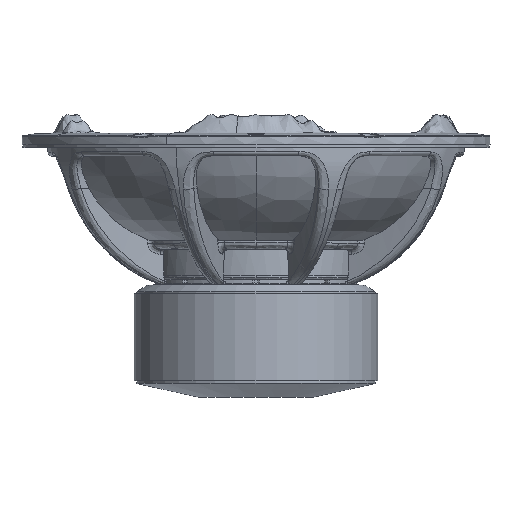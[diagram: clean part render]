
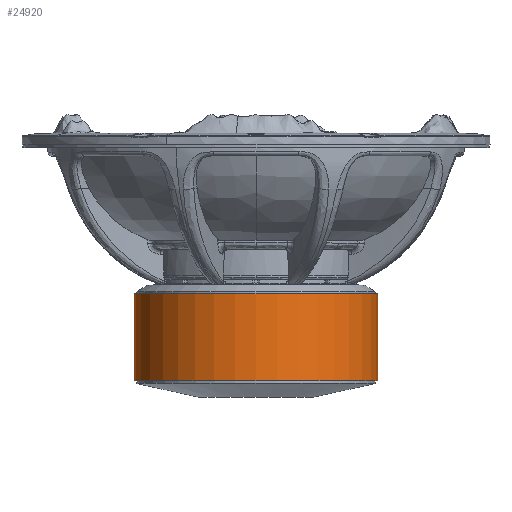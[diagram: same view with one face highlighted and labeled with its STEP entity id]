
A CAD part, top view. The second image highlights one B-rep face of the part: STEP entity #24920.
In plain terms, the highlighted cylindrical face has radius 70 mm (diameter 140 mm), a partial arc.
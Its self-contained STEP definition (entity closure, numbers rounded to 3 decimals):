
#3354 = LINE ( 'NONE', #246671, #274341 ) ;
#23178 = EDGE_LOOP ( 'NONE', ( #65970, #190710, #187719, #291357 ) ) ;
#24920 = ADVANCED_FACE ( 'NONE', ( #250421 ), #58010, .T. ) ;
#25407 = CARTESIAN_POINT ( 'NONE',  ( 0., 16.82, 0. ) ) ;
#34888 = EDGE_CURVE ( 'NONE', #42877, #108479, #355708, .T. ) ;
#42877 = VERTEX_POINT ( 'NONE', #124835 ) ;
#46849 = CARTESIAN_POINT ( 'NONE',  ( 0., 59.5, 0. ) ) ;
#58010 = CYLINDRICAL_SURFACE ( 'NONE', #268804, 70. ) ;
#63926 = LINE ( 'NONE', #281816, #65176 ) ;
#65176 = VECTOR ( 'NONE', #339841, 1000. ) ;
#65970 = ORIENTED_EDGE ( 'NONE', *, *, #241178, .T. ) ;
#74098 = DIRECTION ( 'NONE',  ( -1., 0., 0. ) ) ;
#75934 = DIRECTION ( 'NONE',  ( -1., 0., 0. ) ) ;
#79381 = CARTESIAN_POINT ( 'NONE',  ( 70., 9.5, 0. ) ) ;
#101344 = DIRECTION ( 'NONE',  ( 0., 1., 0. ) ) ;
#108479 = VERTEX_POINT ( 'NONE', #332406 ) ;
#108595 = DIRECTION ( 'NONE',  ( 0., 1., 0. ) ) ;
#124835 = CARTESIAN_POINT ( 'NONE',  ( -70., 59.5, 0. ) ) ;
#132234 = CARTESIAN_POINT ( 'NONE',  ( 0., 9.5, 0. ) ) ;
#152308 = VERTEX_POINT ( 'NONE', #226842 ) ;
#159733 = AXIS2_PLACEMENT_3D ( 'NONE', #132234, #108595, #75934 ) ;
#173425 = EDGE_CURVE ( 'NONE', #152308, #189581, #269813, .T. ) ;
#187719 = ORIENTED_EDGE ( 'NONE', *, *, #245336, .F. ) ;
#189581 = VERTEX_POINT ( 'NONE', #79381 ) ;
#190710 = ORIENTED_EDGE ( 'NONE', *, *, #34888, .F. ) ;
#226842 = CARTESIAN_POINT ( 'NONE',  ( -70., 9.5, 0. ) ) ;
#241178 = EDGE_CURVE ( 'NONE', #189581, #108479, #63926, .T. ) ;
#245336 = EDGE_CURVE ( 'NONE', #152308, #42877, #3354, .T. ) ;
#246671 = CARTESIAN_POINT ( 'NONE',  ( -70., 16.82, 0. ) ) ;
#250421 = FACE_OUTER_BOUND ( 'NONE', #23178, .T. ) ;
#268804 = AXIS2_PLACEMENT_3D ( 'NONE', #25407, #277672, #359370 ) ;
#269813 = CIRCLE ( 'NONE', #159733, 70. ) ;
#274341 = VECTOR ( 'NONE', #331932, 1000. ) ;
#277672 = DIRECTION ( 'NONE',  ( 0., 1., 0. ) ) ;
#281816 = CARTESIAN_POINT ( 'NONE',  ( 70., 16.82, 0. ) ) ;
#285955 = AXIS2_PLACEMENT_3D ( 'NONE', #46849, #101344, #74098 ) ;
#291357 = ORIENTED_EDGE ( 'NONE', *, *, #173425, .T. ) ;
#331932 = DIRECTION ( 'NONE',  ( 0., 1., 0. ) ) ;
#332406 = CARTESIAN_POINT ( 'NONE',  ( 70., 59.5, 0. ) ) ;
#339841 = DIRECTION ( 'NONE',  ( 0., 1., 0. ) ) ;
#355708 = CIRCLE ( 'NONE', #285955, 70. ) ;
#359370 = DIRECTION ( 'NONE',  ( -1., 0., 0. ) ) ;
